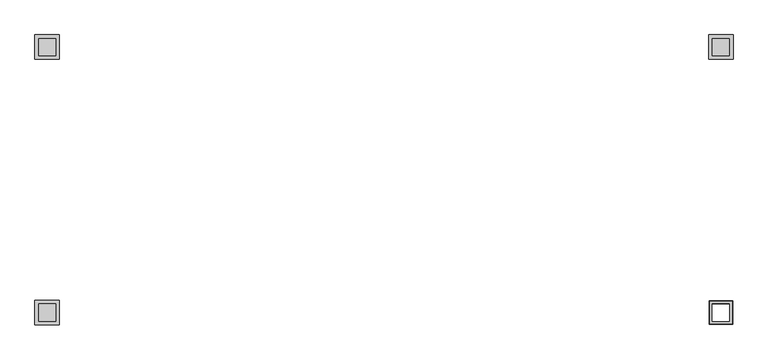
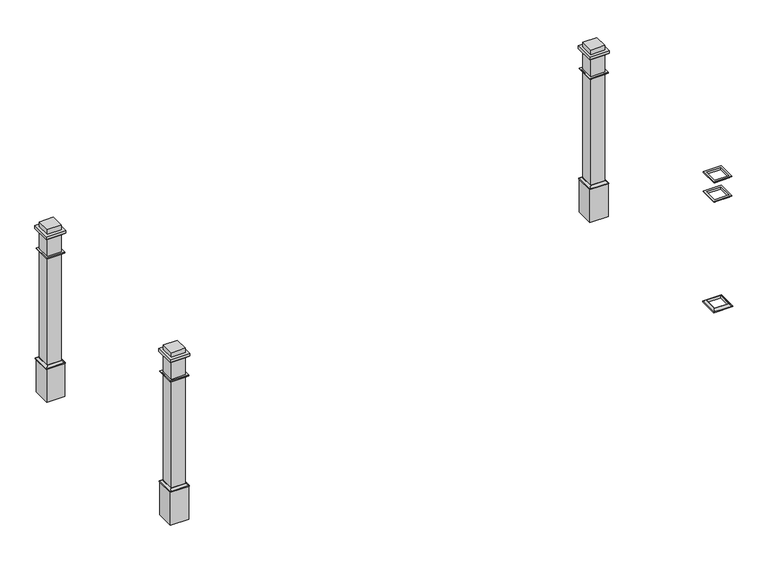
"""IFC4 building model written with IfcOpenShell, lengths in millimetres: railing geometry, Deco Type."""

from ifc_helpers import new_model, si_unit, frame, origin, place, context, project, spatial, polyline, ellipse_curve, outline, extrude, faceted_brep, source, transform, mapped, element, save
from ifc_brep_helpers import plane_surface, revolved_surface, advanced_brep


def railing_6e381e37(model_context):
    return source(origin(), model_context, "Body", "SolidModel", [
        advanced_brep(
        [(-6672.1906648, -9796.5505549, 6197.6), (-6672.1906648, -9796.5505549, 6219.825), (-6551.5406648, -9796.5505549, 6219.825), (-6551.5406648, -9796.5505549, 6197.6), (-6694.4156648, -9818.7755549, 6203.95), (-6694.4156648, -9818.7755549, 6197.6), (-6529.3156648, -9818.7755549, 6197.6), (-6529.3156648, -9818.7755549, 6203.95), (-6678.5406648, -9802.9005549, 6219.825), (-6545.1906648, -9802.9005549, 6219.825), (-6551.5406648, -9675.9005549, 6219.825), (-6551.5406648, -9675.9005549, 6197.6), (-6529.3156648, -9653.6755549, 6197.6), (-6529.3156648, -9653.6755549, 6203.95), (-6545.1906648, -9669.5505549, 6219.825), (-6672.1906648, -9675.9005549, 6219.825), (-6672.1906648, -9675.9005549, 6197.6), (-6694.4156648, -9653.6755549, 6197.6), (-6694.4156648, -9653.6755549, 6203.95), (-6678.5406648, -9669.5505549, 6219.825)],
        [
            (0, 1),
            (1, 2),
            (2, 3),
            (3, 0),
            (4, 5),
            (5, 6),
            (6, 7),
            (7, 4),
            (8, 4, ellipse_curve(frame((-6694.4156648, -9818.7755549, 6219.825), z_axis=(-0.7071067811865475, 0.7071067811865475, 0.0), x_axis=(0.7071067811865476, 0.7071067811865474, 0.0)), 22.4506403, 15.875)),
            (7, 9, ellipse_curve(frame((-6529.3156648, -9818.7755549, 6219.825), z_axis=(0.7071067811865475, 0.7071067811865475, 0.0), x_axis=(0.7071067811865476, -0.7071067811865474, 0.0)), 22.4506403, 15.875)),
            (9, 8),
            (2, 10),
            (10, 11),
            (11, 3),
            (6, 12),
            (12, 13),
            (13, 7),
            (13, 14, ellipse_curve(frame((-6529.3156648, -9653.6755549, 6219.825), z_axis=(-0.7071067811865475, 0.7071067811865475, 0.0), x_axis=(0.7071067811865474, 0.7071067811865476, 0.0)), 22.4506403, 15.875)),
            (14, 9),
            (10, 15),
            (15, 16),
            (16, 11),
            (12, 17),
            (17, 18),
            (18, 13),
            (18, 19, ellipse_curve(frame((-6694.4156648, -9653.6755549, 6219.825), z_axis=(-0.7071067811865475, -0.7071067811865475, 0.0), x_axis=(-0.7071067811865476, 0.7071067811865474, 0.0)), 22.4506403, 15.875)),
            (19, 14),
            (15, 1),
            (0, 16),
            (5, 17),
            (4, 18),
            (8, 19),
        ],
        [
            plane_surface(frame((-6672.1906648, -9796.5505549, 6219.825), z_axis=(0.0, 1.0, 0.0), x_axis=(1.0, 0.0, 0.0))),
            plane_surface(frame((-6694.4156648, -9818.7755549, 6197.6), z_axis=(0.0, -1.0, 0.0), x_axis=(1.0, 0.0, 0.0))),
            revolved_surface(polyline([(-6513.44066480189, -9802.9005549, 6219.825), (-6710.29066479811, -9802.9005549, 6219.825)]), (-6672.1906648, -9818.7755549, 6219.825), (1.0, 0.0, 0.0)),
            plane_surface(frame((-6551.5406648, -9796.5505549, 6219.825), z_axis=(-1.0, 0.0, 0.0), x_axis=(0.0, 1.0, 0.0))),
            plane_surface(frame((-6529.3156648, -9818.7755549, 6197.6), z_axis=(1.0, 0.0, 0.0), x_axis=(0.0, 1.0, 0.0))),
            revolved_surface(polyline([(-6545.1906648, -9637.80055490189, 6219.825), (-6545.1906648, -9834.65055489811, 6219.825)]), (-6529.3156648, -9796.5505549, 6219.825), (0.0, 1.0, 0.0)),
            plane_surface(frame((-6551.5406648, -9675.9005549, 6219.825), z_axis=(0.0, -1.0, 0.0), x_axis=(-1.0, 0.0, 0.0))),
            plane_surface(frame((-6529.3156648, -9653.6755549, 6197.6), z_axis=(0.0, 1.0, 0.0), x_axis=(-1.0, 0.0, 0.0))),
            revolved_surface(polyline([(-6710.29066479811, -9669.5505549, 6219.825), (-6513.44066480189, -9669.5505549, 6219.825)]), (-6551.5406648, -9653.6755549, 6219.825), (-1.0, 0.0, 0.0)),
            plane_surface(frame((-6672.1906648, -9675.9005549, 6219.825), z_axis=(1.0, 0.0, 0.0), x_axis=(0.0, -1.0, 0.0))),
            plane_surface(frame((-6672.1906648, -9675.9005549, 6197.6), z_axis=(0.0, 0.0, -1.0), x_axis=(0.0, -1.0, 0.0))),
            plane_surface(frame((-6694.4156648, -9653.6755549, 6197.6), z_axis=(-1.0, 0.0, 0.0), x_axis=(0.0, -1.0, 0.0))),
            revolved_surface(polyline([(-6678.5406648, -9834.65055489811, 6219.825), (-6678.5406648, -9637.80055490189, 6219.825)]), (-6694.4156648, -9675.9005549, 6219.825), (0.0, -1.0, 0.0)),
            plane_surface(frame((-6678.5406648, -9669.5505549, 6219.825), z_axis=(0.0, 0.0, 1.0), x_axis=(0.0, -1.0, 0.0))),
        ],
        [
            (0, [[1, 2, 3, 4]]),
            (1, [[5, 6, 7, 8]]),
            (2, [[9, -8, 10, 11]]),
            (3, [[-3, 12, 13, 14]]),
            (4, [[-7, 15, 16, 17]]),
            (5, [[-10, -17, 18, 19]]),
            (6, [[-13, 20, 21, 22]]),
            (7, [[-16, 23, 24, 25]]),
            (8, [[-18, -25, 26, 27]]),
            (9, [[-21, 28, -1, 29]]),
            (10, [[30, -23, -15, -6], [-14, -22, -29, -4]]),
            (11, [[-24, -30, -5, 31]]),
            (12, [[-26, -31, -9, 32]]),
            (13, [[-19, -27, -32, -11], [-28, -20, -12, -2]]),
        ],
    ),
        advanced_brep(
        [(-6672.1906648, -9796.5505549, 7204.075), (-6672.1906648, -9796.5505549, 7223.125), (-6551.5406648, -9796.5505549, 7223.125), (-6551.5406648, -9796.5505549, 7204.075), (-6691.2406648, -9815.6005549, 7216.775), (-6678.5406648, -9802.9005549, 7204.075), (-6545.1906648, -9802.9005549, 7204.075), (-6532.4906648, -9815.6005549, 7216.775), (-6691.2406648, -9815.6005549, 7223.125), (-6532.4906648, -9815.6005549, 7223.125), (-6551.5406648, -9675.9005549, 7223.125), (-6551.5406648, -9675.9005549, 7204.075), (-6545.1906648, -9669.5505549, 7204.075), (-6532.4906648, -9656.8505549, 7216.775), (-6532.4906648, -9656.8505549, 7223.125), (-6672.1906648, -9675.9005549, 7223.125), (-6672.1906648, -9675.9005549, 7204.075), (-6678.5406648, -9669.5505549, 7204.075), (-6691.2406648, -9656.8505549, 7216.775), (-6691.2406648, -9656.8505549, 7223.125)],
        [
            (0, 1),
            (1, 2),
            (2, 3),
            (3, 0),
            (4, 5, ellipse_curve(frame((-6691.2406648, -9815.6005549, 7204.075), z_axis=(-0.7071067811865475, 0.7071067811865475, 0.0), x_axis=(0.7071067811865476, 0.7071067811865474, 0.0)), 17.9605122, 12.7)),
            (5, 6),
            (6, 7, ellipse_curve(frame((-6532.4906648, -9815.6005549, 7204.075), z_axis=(0.7071067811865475, 0.7071067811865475, 0.0), x_axis=(0.7071067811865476, -0.7071067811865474, 0.0)), 17.9605122, 12.7)),
            (7, 4),
            (8, 4),
            (7, 9),
            (9, 8),
            (2, 10),
            (10, 11),
            (11, 3),
            (6, 12),
            (12, 13, ellipse_curve(frame((-6532.4906648, -9656.8505549, 7204.075), z_axis=(-0.7071067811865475, 0.7071067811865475, 0.0), x_axis=(0.7071067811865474, 0.7071067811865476, 0.0)), 17.9605122, 12.7)),
            (13, 7),
            (13, 14),
            (14, 9),
            (10, 15),
            (15, 16),
            (16, 11),
            (12, 17),
            (17, 18, ellipse_curve(frame((-6691.2406648, -9656.8505549, 7204.075), z_axis=(-0.7071067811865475, -0.7071067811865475, 0.0), x_axis=(-0.7071067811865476, 0.7071067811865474, 0.0)), 17.9605122, 12.7)),
            (18, 13),
            (18, 19),
            (19, 14),
            (19, 8),
            (1, 15),
            (0, 16),
            (5, 17),
            (4, 18),
        ],
        [
            plane_surface(frame((-6672.1906648, -9796.5505549, 7223.125), z_axis=(0.0, 1.0, 0.0), x_axis=(1.0, 0.0, 0.0))),
            revolved_surface(polyline([(-6519.790664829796, -9802.9005549, 7204.075), (-6703.9406647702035, -9802.9005549, 7204.075)]), (-6672.1906648, -9815.6005549, 7204.075), (1.0, 0.0, 0.0)),
            plane_surface(frame((-6691.2406648, -9815.6005549, 7216.775), z_axis=(0.0, -1.0, 0.0), x_axis=(1.0, 0.0, 0.0))),
            plane_surface(frame((-6551.5406648, -9796.5505549, 7223.125), z_axis=(-1.0, 0.0, 0.0), x_axis=(0.0, 1.0, 0.0))),
            revolved_surface(polyline([(-6545.1906647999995, -9644.150554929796, 7204.075), (-6545.1906647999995, -9828.300554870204, 7204.075)]), (-6532.4906648, -9796.5505549, 7204.075), (0.0, 1.0, 0.0)),
            plane_surface(frame((-6532.4906648, -9815.6005549, 7216.775), z_axis=(1.0, 0.0, 0.0), x_axis=(0.0, 1.0, 0.0))),
            plane_surface(frame((-6551.5406648, -9675.9005549, 7223.125), z_axis=(0.0, -1.0, 0.0), x_axis=(-1.0, 0.0, 0.0))),
            revolved_surface(polyline([(-6703.9406647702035, -9669.5505549, 7204.075), (-6519.790664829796, -9669.5505549, 7204.075)]), (-6551.5406648, -9656.8505549, 7204.075), (-1.0, 0.0, 0.0)),
            plane_surface(frame((-6532.4906648, -9656.8505549, 7216.775), z_axis=(0.0, 1.0, 0.0), x_axis=(-1.0, 0.0, 0.0))),
            plane_surface(frame((-6691.2406648, -9656.8505549, 7223.125), z_axis=(0.0, 0.0, 1.0), x_axis=(0.0, -1.0, 0.0))),
            plane_surface(frame((-6672.1906648, -9675.9005549, 7223.125), z_axis=(1.0, 0.0, 0.0), x_axis=(0.0, -1.0, 0.0))),
            plane_surface(frame((-6672.1906648, -9675.9005549, 7204.075), z_axis=(0.0, 0.0, -1.0), x_axis=(0.0, -1.0, 0.0))),
            revolved_surface(polyline([(-6678.5406648, -9828.300554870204, 7204.075), (-6678.5406648, -9644.150554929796, 7204.075)]), (-6691.2406648, -9675.9005549, 7204.075), (0.0, -1.0, 0.0)),
            plane_surface(frame((-6691.2406648, -9656.8505549, 7216.775), z_axis=(-1.0, 0.0, 0.0), x_axis=(0.0, -1.0, 0.0))),
        ],
        [
            (0, [[1, 2, 3, 4]]),
            (1, [[5, 6, 7, 8]]),
            (2, [[9, -8, 10, 11]]),
            (3, [[-3, 12, 13, 14]]),
            (4, [[-7, 15, 16, 17]]),
            (5, [[-10, -17, 18, 19]]),
            (6, [[-13, 20, 21, 22]]),
            (7, [[-16, 23, 24, 25]]),
            (8, [[-18, -25, 26, 27]]),
            (9, [[-19, -27, 28, -11], [29, -20, -12, -2]]),
            (10, [[-21, -29, -1, 30]]),
            (11, [[31, -23, -15, -6], [-14, -22, -30, -4]]),
            (12, [[-24, -31, -5, 32]]),
            (13, [[-26, -32, -9, -28]]),
        ],
    ),
        faceted_brep([(-6672.1906648, -9796.5505549, 7381.875), (-6672.1906648, -9796.5505549, 7400.925), (-6551.5406648, -9796.5505549, 7400.925), (-6551.5406648, -9796.5505549, 7381.875), (-6678.5406648, -9802.9005549, 7394.575), (-6678.5406648, -9802.9005549, 7381.875), (-6545.1906648, -9802.9005549, 7381.875), (-6545.1906648, -9802.9005549, 7394.575), (-6691.2406648, -9815.6005549, 7400.925), (-6691.2406648, -9815.6005549, 7394.575), (-6532.4906648, -9815.6005549, 7394.575), (-6532.4906648, -9815.6005549, 7400.925), (-6551.5406648, -9675.9005549, 7400.925), (-6551.5406648, -9675.9005549, 7381.875), (-6545.1906648, -9669.5505549, 7381.875), (-6545.1906648, -9669.5505549, 7394.575), (-6532.4906648, -9656.8505549, 7394.575), (-6532.4906648, -9656.8505549, 7400.925), (-6672.1906648, -9675.9005549, 7400.925), (-6672.1906648, -9675.9005549, 7381.875), (-6678.5406648, -9669.5505549, 7381.875), (-6678.5406648, -9669.5505549, 7394.575), (-6691.2406648, -9656.8505549, 7394.575), (-6691.2406648, -9656.8505549, 7400.925)], [[[0, 1, 2, 3]], [[4, 5, 6, 7]], [[8, 9, 10, 11]], [[3, 2, 12, 13]], [[7, 6, 14, 15]], [[11, 10, 16, 17]], [[13, 12, 18, 19]], [[15, 14, 20, 21]], [[17, 16, 22, 23]], [[19, 18, 1, 0]], [[5, 20, 14, 6], [3, 13, 19, 0]], [[21, 20, 5, 4]], [[9, 22, 16, 10], [7, 15, 21, 4]], [[23, 22, 9, 8]], [[11, 17, 23, 8], [1, 18, 12, 2]]]),
        extrude(outline(polyline([(-11275.1469148, -9656.8505549), (-11275.1469148, -9815.6005549), (-11433.8969148, -9815.6005549), (-11433.8969148, -9656.8505549), (-11275.1469148, -9656.8505549)])), frame((0.0, 0.0, 5892.8), z_axis=(0.0, 0.0, 1.0), x_axis=(1.0, 0.0, 0.0)), (0.0, 0.0, 1.0), 304.8),
        extrude(outline(polyline([(-11294.1969148, -9675.9005549), (-11294.1969148, -9796.5505549), (-11414.8469148, -9796.5505549), (-11414.8469148, -9675.9005549), (-11294.1969148, -9675.9005549)])), frame((0.0, 0.0, 6197.6), z_axis=(0.0, 0.0, 1.0), x_axis=(1.0, 0.0, 0.0)), (0.0, 0.0, 1.0), 1270.0),
        extrude(outline(polyline([(-11440.2469148, -9650.5005549), (-11268.7969148, -9650.5005549), (-11268.7969148, -9821.9505549), (-11440.2469148, -9821.9505549), (-11440.2469148, -9650.5005549)]), holes=[polyline([(-11414.8469148, -9796.5505549), (-11294.1969148, -9796.5505549), (-11294.1969148, -9675.9005549), (-11414.8469148, -9675.9005549), (-11414.8469148, -9796.5505549)])]), frame((0.0, 0.0, 7400.925), z_axis=(0.0, 0.0, 1.0), x_axis=(1.0, 0.0, 0.0)), (0.0, 0.0, 1.0), 25.4),
        advanced_brep(
        [(-11414.8469148, -9675.9005549, 6197.6), (-11414.8469148, -9675.9005549, 6219.825), (-11414.8469148, -9796.5505549, 6219.825), (-11414.8469148, -9796.5505549, 6197.6), (-11437.0719148, -9653.6755549, 6203.95), (-11437.0719148, -9653.6755549, 6197.6), (-11437.0719148, -9818.7755549, 6197.6), (-11437.0719148, -9818.7755549, 6203.95), (-11421.1969148, -9669.5505549, 6219.825), (-11421.1969148, -9802.9005549, 6219.825), (-11294.1969148, -9796.5505549, 6219.825), (-11294.1969148, -9796.5505549, 6197.6), (-11271.9719148, -9818.7755549, 6197.6), (-11271.9719148, -9818.7755549, 6203.95), (-11287.8469148, -9802.9005549, 6219.825), (-11294.1969148, -9675.9005549, 6219.825), (-11294.1969148, -9675.9005549, 6197.6), (-11271.9719148, -9653.6755549, 6197.6), (-11271.9719148, -9653.6755549, 6203.95), (-11287.8469148, -9669.5505549, 6219.825)],
        [
            (0, 1),
            (1, 2),
            (2, 3),
            (3, 0),
            (4, 5),
            (5, 6),
            (6, 7),
            (7, 4),
            (8, 4, ellipse_curve(frame((-11437.0719148, -9653.6755549, 6219.825), z_axis=(0.7071067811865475, 0.7071067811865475, 0.0), x_axis=(0.7071067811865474, -0.7071067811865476, 0.0)), 22.4506403, 15.875)),
            (7, 9, ellipse_curve(frame((-11437.0719148, -9818.7755549, 6219.825), z_axis=(0.7071067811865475, -0.7071067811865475, 0.0), x_axis=(-0.7071067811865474, -0.7071067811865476, 0.0)), 22.4506403, 15.875)),
            (9, 8),
            (2, 10),
            (10, 11),
            (11, 3),
            (6, 12),
            (12, 13),
            (13, 7),
            (13, 14, ellipse_curve(frame((-11271.9719148, -9818.7755549, 6219.825), z_axis=(0.7071067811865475, 0.7071067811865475, 0.0), x_axis=(0.7071067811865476, -0.7071067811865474, 0.0)), 22.4506403, 15.875)),
            (14, 9),
            (10, 15),
            (15, 16),
            (16, 11),
            (12, 17),
            (17, 18),
            (18, 13),
            (18, 19, ellipse_curve(frame((-11271.9719148, -9653.6755549, 6219.825), z_axis=(-0.7071067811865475, 0.7071067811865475, 0.0), x_axis=(0.7071067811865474, 0.7071067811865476, 0.0)), 22.4506403, 15.875)),
            (19, 14),
            (15, 1),
            (0, 16),
            (5, 17),
            (4, 18),
            (8, 19),
        ],
        [
            plane_surface(frame((-11414.8469148, -9675.9005549, 6219.825), z_axis=(1.0, 0.0, 0.0), x_axis=(0.0, -1.0, 0.0))),
            plane_surface(frame((-11437.0719148, -9653.6755549, 6197.6), z_axis=(-1.0, 0.0, 0.0), x_axis=(0.0, -1.0, 0.0))),
            revolved_surface(polyline([(-11421.1969148, -9834.65055489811, 6219.825), (-11421.1969148, -9637.80055490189, 6219.825)]), (-11437.0719148, -9675.9005549, 6219.825), (0.0, -1.0, 0.0)),
            plane_surface(frame((-11414.8469148, -9796.5505549, 6219.825), z_axis=(0.0, 1.0, 0.0), x_axis=(1.0, 0.0, 0.0))),
            plane_surface(frame((-11437.0719148, -9818.7755549, 6197.6), z_axis=(0.0, -1.0, 0.0), x_axis=(1.0, 0.0, 0.0))),
            revolved_surface(polyline([(-11256.09691480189, -9802.9005549, 6219.825), (-11452.94691479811, -9802.9005549, 6219.825)]), (-11414.8469148, -9818.7755549, 6219.825), (1.0, 0.0, 0.0)),
            plane_surface(frame((-11294.1969148, -9796.5505549, 6219.825), z_axis=(-1.0, 0.0, 0.0), x_axis=(0.0, 1.0, 0.0))),
            plane_surface(frame((-11271.9719148, -9818.7755549, 6197.6), z_axis=(1.0, 0.0, 0.0), x_axis=(0.0, 1.0, 0.0))),
            revolved_surface(polyline([(-11287.8469148, -9637.80055490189, 6219.825), (-11287.8469148, -9834.65055489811, 6219.825)]), (-11271.9719148, -9796.5505549, 6219.825), (0.0, 1.0, 0.0)),
            plane_surface(frame((-11294.1969148, -9675.9005549, 6219.825), z_axis=(0.0, -1.0, 0.0), x_axis=(-1.0, 0.0, 0.0))),
            plane_surface(frame((-11294.1969148, -9675.9005549, 6197.6), z_axis=(0.0, 0.0, -1.0), x_axis=(-1.0, 0.0, 0.0))),
            plane_surface(frame((-11271.9719148, -9653.6755549, 6197.6), z_axis=(0.0, 1.0, 0.0), x_axis=(-1.0, 0.0, 0.0))),
            revolved_surface(polyline([(-11452.94691479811, -9669.5505549, 6219.825), (-11256.09691480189, -9669.5505549, 6219.825)]), (-11294.1969148, -9653.6755549, 6219.825), (-1.0, 0.0, 0.0)),
            plane_surface(frame((-11287.8469148, -9669.5505549, 6219.825), z_axis=(0.0, 0.0, 1.0), x_axis=(-1.0, 0.0, 0.0))),
        ],
        [
            (0, [[1, 2, 3, 4]]),
            (1, [[5, 6, 7, 8]]),
            (2, [[9, -8, 10, 11]]),
            (3, [[-3, 12, 13, 14]]),
            (4, [[-7, 15, 16, 17]]),
            (5, [[-10, -17, 18, 19]]),
            (6, [[-13, 20, 21, 22]]),
            (7, [[-16, 23, 24, 25]]),
            (8, [[-18, -25, 26, 27]]),
            (9, [[-21, 28, -1, 29]]),
            (10, [[30, -23, -15, -6], [-14, -22, -29, -4]]),
            (11, [[-24, -30, -5, 31]]),
            (12, [[-26, -31, -9, 32]]),
            (13, [[-19, -27, -32, -11], [-28, -20, -12, -2]]),
        ],
    ),
        advanced_brep(
        [(-11414.8469148, -9675.9005549, 7204.075), (-11414.8469148, -9675.9005549, 7223.125), (-11414.8469148, -9796.5505549, 7223.125), (-11414.8469148, -9796.5505549, 7204.075), (-11433.8969148, -9656.8505549, 7216.775), (-11421.1969148, -9669.5505549, 7204.075), (-11421.1969148, -9802.9005549, 7204.075), (-11433.8969148, -9815.6005549, 7216.775), (-11433.8969148, -9656.8505549, 7223.125), (-11433.8969148, -9815.6005549, 7223.125), (-11294.1969148, -9796.5505549, 7223.125), (-11294.1969148, -9796.5505549, 7204.075), (-11287.8469148, -9802.9005549, 7204.075), (-11275.1469148, -9815.6005549, 7216.775), (-11275.1469148, -9815.6005549, 7223.125), (-11294.1969148, -9675.9005549, 7223.125), (-11294.1969148, -9675.9005549, 7204.075), (-11287.8469148, -9669.5505549, 7204.075), (-11275.1469148, -9656.8505549, 7216.775), (-11275.1469148, -9656.8505549, 7223.125)],
        [
            (0, 1),
            (1, 2),
            (2, 3),
            (3, 0),
            (4, 5, ellipse_curve(frame((-11433.8969148, -9656.8505549, 7204.075), z_axis=(0.7071067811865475, 0.7071067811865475, 0.0), x_axis=(0.7071067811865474, -0.7071067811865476, 0.0)), 17.9605122, 12.7)),
            (5, 6),
            (6, 7, ellipse_curve(frame((-11433.8969148, -9815.6005549, 7204.075), z_axis=(0.7071067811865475, -0.7071067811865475, 0.0), x_axis=(-0.7071067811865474, -0.7071067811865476, 0.0)), 17.9605122, 12.7)),
            (7, 4),
            (8, 4),
            (7, 9),
            (9, 8),
            (2, 10),
            (10, 11),
            (11, 3),
            (6, 12),
            (12, 13, ellipse_curve(frame((-11275.1469148, -9815.6005549, 7204.075), z_axis=(0.7071067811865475, 0.7071067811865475, 0.0), x_axis=(0.7071067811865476, -0.7071067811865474, 0.0)), 17.9605122, 12.7)),
            (13, 7),
            (13, 14),
            (14, 9),
            (10, 15),
            (15, 16),
            (16, 11),
            (12, 17),
            (17, 18, ellipse_curve(frame((-11275.1469148, -9656.8505549, 7204.075), z_axis=(-0.7071067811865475, 0.7071067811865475, 0.0), x_axis=(0.7071067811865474, 0.7071067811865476, 0.0)), 17.9605122, 12.7)),
            (18, 13),
            (18, 19),
            (19, 14),
            (19, 8),
            (1, 15),
            (0, 16),
            (5, 17),
            (4, 18),
        ],
        [
            plane_surface(frame((-11414.8469148, -9675.9005549, 7223.125), z_axis=(1.0, 0.0, 0.0), x_axis=(0.0, -1.0, 0.0))),
            revolved_surface(polyline([(-11421.196914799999, -9828.300554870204, 7204.075), (-11421.196914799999, -9644.150554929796, 7204.075)]), (-11433.8969148, -9675.9005549, 7204.075), (0.0, -1.0, 0.0)),
            plane_surface(frame((-11433.8969148, -9656.8505549, 7216.775), z_axis=(-1.0, 0.0, 0.0), x_axis=(0.0, -1.0, 0.0))),
            plane_surface(frame((-11414.8469148, -9796.5505549, 7223.125), z_axis=(0.0, 1.0, 0.0), x_axis=(1.0, 0.0, 0.0))),
            revolved_surface(polyline([(-11262.446914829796, -9802.9005549, 7204.075), (-11446.596914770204, -9802.9005549, 7204.075)]), (-11414.8469148, -9815.6005549, 7204.075), (1.0, 0.0, 0.0)),
            plane_surface(frame((-11433.8969148, -9815.6005549, 7216.775), z_axis=(0.0, -1.0, 0.0), x_axis=(1.0, 0.0, 0.0))),
            plane_surface(frame((-11294.1969148, -9796.5505549, 7223.125), z_axis=(-1.0, 0.0, 0.0), x_axis=(0.0, 1.0, 0.0))),
            revolved_surface(polyline([(-11287.8469148, -9644.150554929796, 7204.075), (-11287.8469148, -9828.300554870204, 7204.075)]), (-11275.1469148, -9796.5505549, 7204.075), (0.0, 1.0, 0.0)),
            plane_surface(frame((-11275.1469148, -9815.6005549, 7216.775), z_axis=(1.0, 0.0, 0.0), x_axis=(0.0, 1.0, 0.0))),
            plane_surface(frame((-11275.1469148, -9656.8505549, 7223.125), z_axis=(0.0, 0.0, 1.0), x_axis=(-1.0, 0.0, 0.0))),
            plane_surface(frame((-11294.1969148, -9675.9005549, 7223.125), z_axis=(0.0, -1.0, 0.0), x_axis=(-1.0, 0.0, 0.0))),
            plane_surface(frame((-11294.1969148, -9675.9005549, 7204.075), z_axis=(0.0, 0.0, -1.0), x_axis=(-1.0, 0.0, 0.0))),
            revolved_surface(polyline([(-11446.596914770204, -9669.5505549, 7204.075), (-11262.446914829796, -9669.5505549, 7204.075)]), (-11294.1969148, -9656.8505549, 7204.075), (-1.0, 0.0, 0.0)),
            plane_surface(frame((-11275.1469148, -9656.8505549, 7216.775), z_axis=(0.0, 1.0, 0.0), x_axis=(-1.0, 0.0, 0.0))),
        ],
        [
            (0, [[1, 2, 3, 4]]),
            (1, [[5, 6, 7, 8]]),
            (2, [[9, -8, 10, 11]]),
            (3, [[-3, 12, 13, 14]]),
            (4, [[-7, 15, 16, 17]]),
            (5, [[-10, -17, 18, 19]]),
            (6, [[-13, 20, 21, 22]]),
            (7, [[-16, 23, 24, 25]]),
            (8, [[-18, -25, 26, 27]]),
            (9, [[-19, -27, 28, -11], [29, -20, -12, -2]]),
            (10, [[-21, -29, -1, 30]]),
            (11, [[31, -23, -15, -6], [-14, -22, -30, -4]]),
            (12, [[-24, -31, -5, 32]]),
            (13, [[-26, -32, -9, -28]]),
        ],
    ),
        faceted_brep([(-11414.8469148, -9675.9005549, 7381.875), (-11414.8469148, -9675.9005549, 7400.925), (-11414.8469148, -9796.5505549, 7400.925), (-11414.8469148, -9796.5505549, 7381.875), (-11421.1969148, -9669.5505549, 7394.575), (-11421.1969148, -9669.5505549, 7381.875), (-11421.1969148, -9802.9005549, 7381.875), (-11421.1969148, -9802.9005549, 7394.575), (-11433.8969148, -9656.8505549, 7400.925), (-11433.8969148, -9656.8505549, 7394.575), (-11433.8969148, -9815.6005549, 7394.575), (-11433.8969148, -9815.6005549, 7400.925), (-11294.1969148, -9796.5505549, 7400.925), (-11294.1969148, -9796.5505549, 7381.875), (-11287.8469148, -9802.9005549, 7381.875), (-11287.8469148, -9802.9005549, 7394.575), (-11275.1469148, -9815.6005549, 7394.575), (-11275.1469148, -9815.6005549, 7400.925), (-11294.1969148, -9675.9005549, 7400.925), (-11294.1969148, -9675.9005549, 7381.875), (-11287.8469148, -9669.5505549, 7381.875), (-11287.8469148, -9669.5505549, 7394.575), (-11275.1469148, -9656.8505549, 7394.575), (-11275.1469148, -9656.8505549, 7400.925)], [[[0, 1, 2, 3]], [[4, 5, 6, 7]], [[8, 9, 10, 11]], [[3, 2, 12, 13]], [[7, 6, 14, 15]], [[11, 10, 16, 17]], [[13, 12, 18, 19]], [[15, 14, 20, 21]], [[17, 16, 22, 23]], [[19, 18, 1, 0]], [[5, 20, 14, 6], [3, 13, 19, 0]], [[21, 20, 5, 4]], [[9, 22, 16, 10], [7, 15, 21, 4]], [[23, 22, 9, 8]], [[11, 17, 23, 8], [1, 18, 12, 2]]]),
        extrude(outline(polyline([(-6691.2406648, -7943.5411799), (-6691.2406648, -7784.7911799), (-6532.4906648, -7784.7911799), (-6532.4906648, -7943.5411799), (-6691.2406648, -7943.5411799)])), frame((0.0, 0.0, 5892.8), z_axis=(0.0, 0.0, 1.0), x_axis=(1.0, 0.0, 0.0)), (0.0, 0.0, 1.0), 304.8),
        extrude(outline(polyline([(-6672.1906648, -7924.4911799), (-6672.1906648, -7803.8411799), (-6551.5406648, -7803.8411799), (-6551.5406648, -7924.4911799), (-6672.1906648, -7924.4911799)])), frame((0.0, 0.0, 6197.6), z_axis=(0.0, 0.0, 1.0), x_axis=(1.0, 0.0, 0.0)), (0.0, 0.0, 1.0), 1270.0),
        extrude(outline(polyline([(-6526.1406648, -7949.8911799), (-6697.5906648, -7949.8911799), (-6697.5906648, -7778.4411799), (-6526.1406648, -7778.4411799), (-6526.1406648, -7949.8911799)]), holes=[polyline([(-6551.5406648, -7803.8411799), (-6672.1906648, -7803.8411799), (-6672.1906648, -7924.4911799), (-6551.5406648, -7924.4911799), (-6551.5406648, -7803.8411799)])]), frame((0.0, 0.0, 7400.925), z_axis=(0.0, 0.0, 1.0), x_axis=(1.0, 0.0, 0.0)), (0.0, 0.0, 1.0), 25.4),
        advanced_brep(
        [(-6551.5406648, -7924.4911799, 6197.6), (-6551.5406648, -7924.4911799, 6219.825), (-6551.5406648, -7803.8411799, 6219.825), (-6551.5406648, -7803.8411799, 6197.6), (-6529.3156648, -7946.7161799, 6203.95), (-6529.3156648, -7946.7161799, 6197.6), (-6529.3156648, -7781.6161799, 6197.6), (-6529.3156648, -7781.6161799, 6203.95), (-6545.1906648, -7930.8411799, 6219.825), (-6545.1906648, -7797.4911799, 6219.825), (-6672.1906648, -7803.8411799, 6219.825), (-6672.1906648, -7803.8411799, 6197.6), (-6694.4156648, -7781.6161799, 6197.6), (-6694.4156648, -7781.6161799, 6203.95), (-6678.5406648, -7797.4911799, 6219.825), (-6672.1906648, -7924.4911799, 6219.825), (-6672.1906648, -7924.4911799, 6197.6), (-6694.4156648, -7946.7161799, 6197.6), (-6694.4156648, -7946.7161799, 6203.95), (-6678.5406648, -7930.8411799, 6219.825)],
        [
            (0, 1),
            (1, 2),
            (2, 3),
            (3, 0),
            (4, 5),
            (5, 6),
            (6, 7),
            (7, 4),
            (8, 4, ellipse_curve(frame((-6529.3156648, -7946.7161799, 6219.825), z_axis=(-0.7071067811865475, -0.7071067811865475, 0.0), x_axis=(-0.7071067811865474, 0.7071067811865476, 0.0)), 22.4506403, 15.875)),
            (7, 9, ellipse_curve(frame((-6529.3156648, -7781.6161799, 6219.825), z_axis=(-0.7071067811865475, 0.7071067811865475, 0.0), x_axis=(0.7071067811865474, 0.7071067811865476, 0.0)), 22.4506403, 15.875)),
            (9, 8),
            (2, 10),
            (10, 11),
            (11, 3),
            (6, 12),
            (12, 13),
            (13, 7),
            (13, 14, ellipse_curve(frame((-6694.4156648, -7781.6161799, 6219.825), z_axis=(-0.7071067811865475, -0.7071067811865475, 0.0), x_axis=(-0.7071067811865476, 0.7071067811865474, 0.0)), 22.4506403, 15.875)),
            (14, 9),
            (10, 15),
            (15, 16),
            (16, 11),
            (12, 17),
            (17, 18),
            (18, 13),
            (18, 19, ellipse_curve(frame((-6694.4156648, -7946.7161799, 6219.825), z_axis=(0.7071067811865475, -0.7071067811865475, 0.0), x_axis=(-0.7071067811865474, -0.7071067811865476, 0.0)), 22.4506403, 15.875)),
            (19, 14),
            (15, 1),
            (0, 16),
            (5, 17),
            (4, 18),
            (8, 19),
        ],
        [
            plane_surface(frame((-6551.5406648, -7924.4911799, 6219.825), z_axis=(-1.0, 0.0, 0.0), x_axis=(0.0, 1.0, 0.0))),
            plane_surface(frame((-6529.3156648, -7946.7161799, 6197.6), z_axis=(1.0, 0.0, 0.0), x_axis=(0.0, 1.0, 0.0))),
            revolved_surface(polyline([(-6545.1906648, -7765.74117990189, 6219.825), (-6545.1906648, -7962.59117989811, 6219.825)]), (-6529.3156648, -7924.4911799, 6219.825), (0.0, 1.0, 0.0)),
            plane_surface(frame((-6551.5406648, -7803.8411799, 6219.825), z_axis=(0.0, -1.0, 0.0), x_axis=(-1.0, 0.0, 0.0))),
            plane_surface(frame((-6529.3156648, -7781.6161799, 6197.6), z_axis=(0.0, 1.0, 0.0), x_axis=(-1.0, 0.0, 0.0))),
            revolved_surface(polyline([(-6710.29066479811, -7797.4911799, 6219.825), (-6513.44066480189, -7797.4911799, 6219.825)]), (-6551.5406648, -7781.6161799, 6219.825), (-1.0, 0.0, 0.0)),
            plane_surface(frame((-6672.1906648, -7803.8411799, 6219.825), z_axis=(1.0, 0.0, 0.0), x_axis=(0.0, -1.0, 0.0))),
            plane_surface(frame((-6694.4156648, -7781.6161799, 6197.6), z_axis=(-1.0, 0.0, 0.0), x_axis=(0.0, -1.0, 0.0))),
            revolved_surface(polyline([(-6678.5406648, -7962.59117989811, 6219.825), (-6678.5406648, -7765.74117990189, 6219.825)]), (-6694.4156648, -7803.8411799, 6219.825), (0.0, -1.0, 0.0)),
            plane_surface(frame((-6672.1906648, -7924.4911799, 6219.825), z_axis=(0.0, 1.0, 0.0), x_axis=(1.0, 0.0, 0.0))),
            plane_surface(frame((-6672.1906648, -7924.4911799, 6197.6), z_axis=(0.0, 0.0, -1.0), x_axis=(1.0, 0.0, 0.0))),
            plane_surface(frame((-6694.4156648, -7946.7161799, 6197.6), z_axis=(0.0, -1.0, 0.0), x_axis=(1.0, 0.0, 0.0))),
            revolved_surface(polyline([(-6513.44066480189, -7930.8411799, 6219.825), (-6710.29066479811, -7930.8411799, 6219.825)]), (-6672.1906648, -7946.7161799, 6219.825), (1.0, 0.0, 0.0)),
            plane_surface(frame((-6678.5406648, -7930.8411799, 6219.825), z_axis=(0.0, 0.0, 1.0), x_axis=(1.0, 0.0, 0.0))),
        ],
        [
            (0, [[1, 2, 3, 4]]),
            (1, [[5, 6, 7, 8]]),
            (2, [[9, -8, 10, 11]]),
            (3, [[-3, 12, 13, 14]]),
            (4, [[-7, 15, 16, 17]]),
            (5, [[-10, -17, 18, 19]]),
            (6, [[-13, 20, 21, 22]]),
            (7, [[-16, 23, 24, 25]]),
            (8, [[-18, -25, 26, 27]]),
            (9, [[-21, 28, -1, 29]]),
            (10, [[30, -23, -15, -6], [-14, -22, -29, -4]]),
            (11, [[-24, -30, -5, 31]]),
            (12, [[-26, -31, -9, 32]]),
            (13, [[-19, -27, -32, -11], [-28, -20, -12, -2]]),
        ],
    ),
        advanced_brep(
        [(-6551.5406648, -7924.4911799, 7204.075), (-6551.5406648, -7924.4911799, 7223.125), (-6551.5406648, -7803.8411799, 7223.125), (-6551.5406648, -7803.8411799, 7204.075), (-6532.4906648, -7943.5411799, 7216.775), (-6545.1906648, -7930.8411799, 7204.075), (-6545.1906648, -7797.4911799, 7204.075), (-6532.4906648, -7784.7911799, 7216.775), (-6532.4906648, -7943.5411799, 7223.125), (-6532.4906648, -7784.7911799, 7223.125), (-6672.1906648, -7803.8411799, 7223.125), (-6672.1906648, -7803.8411799, 7204.075), (-6678.5406648, -7797.4911799, 7204.075), (-6691.2406648, -7784.7911799, 7216.775), (-6691.2406648, -7784.7911799, 7223.125), (-6672.1906648, -7924.4911799, 7223.125), (-6672.1906648, -7924.4911799, 7204.075), (-6678.5406648, -7930.8411799, 7204.075), (-6691.2406648, -7943.5411799, 7216.775), (-6691.2406648, -7943.5411799, 7223.125)],
        [
            (0, 1),
            (1, 2),
            (2, 3),
            (3, 0),
            (4, 5, ellipse_curve(frame((-6532.4906648, -7943.5411799, 7204.075), z_axis=(-0.7071067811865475, -0.7071067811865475, 0.0), x_axis=(-0.7071067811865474, 0.7071067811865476, 0.0)), 17.9605122, 12.7)),
            (5, 6),
            (6, 7, ellipse_curve(frame((-6532.4906648, -7784.7911799, 7204.075), z_axis=(-0.7071067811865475, 0.7071067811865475, 0.0), x_axis=(0.7071067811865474, 0.7071067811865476, 0.0)), 17.9605122, 12.7)),
            (7, 4),
            (8, 4),
            (7, 9),
            (9, 8),
            (2, 10),
            (10, 11),
            (11, 3),
            (6, 12),
            (12, 13, ellipse_curve(frame((-6691.2406648, -7784.7911799, 7204.075), z_axis=(-0.7071067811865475, -0.7071067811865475, 0.0), x_axis=(-0.7071067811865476, 0.7071067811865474, 0.0)), 17.9605122, 12.7)),
            (13, 7),
            (13, 14),
            (14, 9),
            (10, 15),
            (15, 16),
            (16, 11),
            (12, 17),
            (17, 18, ellipse_curve(frame((-6691.2406648, -7943.5411799, 7204.075), z_axis=(0.7071067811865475, -0.7071067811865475, 0.0), x_axis=(-0.7071067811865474, -0.7071067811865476, 0.0)), 17.9605122, 12.7)),
            (18, 13),
            (18, 19),
            (19, 14),
            (19, 8),
            (1, 15),
            (0, 16),
            (5, 17),
            (4, 18),
        ],
        [
            plane_surface(frame((-6551.5406648, -7924.4911799, 7223.125), z_axis=(-1.0, 0.0, 0.0), x_axis=(0.0, 1.0, 0.0))),
            revolved_surface(polyline([(-6545.1906647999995, -7772.091179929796, 7204.075), (-6545.1906647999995, -7956.241179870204, 7204.075)]), (-6532.4906648, -7924.4911799, 7204.075), (0.0, 1.0, 0.0)),
            plane_surface(frame((-6532.4906648, -7943.5411799, 7216.775), z_axis=(1.0, 0.0, 0.0), x_axis=(0.0, 1.0, 0.0))),
            plane_surface(frame((-6551.5406648, -7803.8411799, 7223.125), z_axis=(0.0, -1.0, 0.0), x_axis=(-1.0, 0.0, 0.0))),
            revolved_surface(polyline([(-6703.9406647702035, -7797.4911799, 7204.075), (-6519.790664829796, -7797.4911799, 7204.075)]), (-6551.5406648, -7784.7911799, 7204.075), (-1.0, 0.0, 0.0)),
            plane_surface(frame((-6532.4906648, -7784.7911799, 7216.775), z_axis=(0.0, 1.0, 0.0), x_axis=(-1.0, 0.0, 0.0))),
            plane_surface(frame((-6672.1906648, -7803.8411799, 7223.125), z_axis=(1.0, 0.0, 0.0), x_axis=(0.0, -1.0, 0.0))),
            revolved_surface(polyline([(-6678.5406648, -7956.241179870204, 7204.075), (-6678.5406648, -7772.091179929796, 7204.075)]), (-6691.2406648, -7803.8411799, 7204.075), (0.0, -1.0, 0.0)),
            plane_surface(frame((-6691.2406648, -7784.7911799, 7216.775), z_axis=(-1.0, 0.0, 0.0), x_axis=(0.0, -1.0, 0.0))),
            plane_surface(frame((-6691.2406648, -7943.5411799, 7223.125), z_axis=(0.0, 0.0, 1.0), x_axis=(1.0, 0.0, 0.0))),
            plane_surface(frame((-6672.1906648, -7924.4911799, 7223.125), z_axis=(0.0, 1.0, 0.0), x_axis=(1.0, 0.0, 0.0))),
            plane_surface(frame((-6672.1906648, -7924.4911799, 7204.075), z_axis=(0.0, 0.0, -1.0), x_axis=(1.0, 0.0, 0.0))),
            revolved_surface(polyline([(-6519.790664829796, -7930.8411799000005, 7204.075), (-6703.9406647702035, -7930.8411799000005, 7204.075)]), (-6672.1906648, -7943.5411799, 7204.075), (1.0, 0.0, 0.0)),
            plane_surface(frame((-6691.2406648, -7943.5411799, 7216.775), z_axis=(0.0, -1.0, 0.0), x_axis=(1.0, 0.0, 0.0))),
        ],
        [
            (0, [[1, 2, 3, 4]]),
            (1, [[5, 6, 7, 8]]),
            (2, [[9, -8, 10, 11]]),
            (3, [[-3, 12, 13, 14]]),
            (4, [[-7, 15, 16, 17]]),
            (5, [[-10, -17, 18, 19]]),
            (6, [[-13, 20, 21, 22]]),
            (7, [[-16, 23, 24, 25]]),
            (8, [[-18, -25, 26, 27]]),
            (9, [[-19, -27, 28, -11], [29, -20, -12, -2]]),
            (10, [[-21, -29, -1, 30]]),
            (11, [[31, -23, -15, -6], [-14, -22, -30, -4]]),
            (12, [[-24, -31, -5, 32]]),
            (13, [[-26, -32, -9, -28]]),
        ],
    ),
        faceted_brep([(-6551.5406648, -7924.4911799, 7381.875), (-6551.5406648, -7924.4911799, 7400.925), (-6551.5406648, -7803.8411799, 7400.925), (-6551.5406648, -7803.8411799, 7381.875), (-6545.1906648, -7930.8411799, 7394.575), (-6545.1906648, -7930.8411799, 7381.875), (-6545.1906648, -7797.4911799, 7381.875), (-6545.1906648, -7797.4911799, 7394.575), (-6532.4906648, -7943.5411799, 7400.925), (-6532.4906648, -7943.5411799, 7394.575), (-6532.4906648, -7784.7911799, 7394.575), (-6532.4906648, -7784.7911799, 7400.925), (-6672.1906648, -7803.8411799, 7400.925), (-6672.1906648, -7803.8411799, 7381.875), (-6678.5406648, -7797.4911799, 7381.875), (-6678.5406648, -7797.4911799, 7394.575), (-6691.2406648, -7784.7911799, 7394.575), (-6691.2406648, -7784.7911799, 7400.925), (-6672.1906648, -7924.4911799, 7400.925), (-6672.1906648, -7924.4911799, 7381.875), (-6678.5406648, -7930.8411799, 7381.875), (-6678.5406648, -7930.8411799, 7394.575), (-6691.2406648, -7943.5411799, 7394.575), (-6691.2406648, -7943.5411799, 7400.925)], [[[0, 1, 2, 3]], [[4, 5, 6, 7]], [[8, 9, 10, 11]], [[3, 2, 12, 13]], [[7, 6, 14, 15]], [[11, 10, 16, 17]], [[13, 12, 18, 19]], [[15, 14, 20, 21]], [[17, 16, 22, 23]], [[19, 18, 1, 0]], [[5, 20, 14, 6], [3, 13, 19, 0]], [[21, 20, 5, 4]], [[9, 22, 16, 10], [7, 15, 21, 4]], [[23, 22, 9, 8]], [[11, 17, 23, 8], [1, 18, 12, 2]]]),
        extrude(outline(polyline([(-11275.1469148, -7784.7911799), (-11275.1469148, -7943.5411799), (-11433.8969148, -7943.5411799), (-11433.8969148, -7784.7911799), (-11275.1469148, -7784.7911799)])), frame((0.0, 0.0, 5892.8), z_axis=(0.0, 0.0, 1.0), x_axis=(1.0, 0.0, 0.0)), (0.0, 0.0, 1.0), 304.8),
        extrude(outline(polyline([(-11294.1969148, -7803.8411799), (-11294.1969148, -7924.4911799), (-11414.8469148, -7924.4911799), (-11414.8469148, -7803.8411799), (-11294.1969148, -7803.8411799)])), frame((0.0, 0.0, 6197.6), z_axis=(0.0, 0.0, 1.0), x_axis=(1.0, 0.0, 0.0)), (0.0, 0.0, 1.0), 1270.0),
        extrude(outline(polyline([(-11440.2469148, -7778.4411799), (-11268.7969148, -7778.4411799), (-11268.7969148, -7949.8911799), (-11440.2469148, -7949.8911799), (-11440.2469148, -7778.4411799)]), holes=[polyline([(-11414.8469148, -7924.4911799), (-11294.1969148, -7924.4911799), (-11294.1969148, -7803.8411799), (-11414.8469148, -7803.8411799), (-11414.8469148, -7924.4911799)])]), frame((0.0, 0.0, 7400.925), z_axis=(0.0, 0.0, 1.0), x_axis=(1.0, 0.0, 0.0)), (0.0, 0.0, 1.0), 25.4),
        advanced_brep(
        [(-11414.8469148, -7803.8411799, 6197.6), (-11414.8469148, -7803.8411799, 6219.825), (-11414.8469148, -7924.4911799, 6219.825), (-11414.8469148, -7924.4911799, 6197.6), (-11437.0719148, -7781.6161799, 6203.95), (-11437.0719148, -7781.6161799, 6197.6), (-11437.0719148, -7946.7161799, 6197.6), (-11437.0719148, -7946.7161799, 6203.95), (-11421.1969148, -7797.4911799, 6219.825), (-11421.1969148, -7930.8411799, 6219.825), (-11294.1969148, -7924.4911799, 6219.825), (-11294.1969148, -7924.4911799, 6197.6), (-11271.9719148, -7946.7161799, 6197.6), (-11271.9719148, -7946.7161799, 6203.95), (-11287.8469148, -7930.8411799, 6219.825), (-11294.1969148, -7803.8411799, 6219.825), (-11294.1969148, -7803.8411799, 6197.6), (-11271.9719148, -7781.6161799, 6197.6), (-11271.9719148, -7781.6161799, 6203.95), (-11287.8469148, -7797.4911799, 6219.825)],
        [
            (0, 1),
            (1, 2),
            (2, 3),
            (3, 0),
            (4, 5),
            (5, 6),
            (6, 7),
            (7, 4),
            (8, 4, ellipse_curve(frame((-11437.0719148, -7781.6161799, 6219.825), z_axis=(0.7071067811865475, 0.7071067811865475, 0.0), x_axis=(0.7071067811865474, -0.7071067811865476, 0.0)), 22.4506403, 15.875)),
            (7, 9, ellipse_curve(frame((-11437.0719148, -7946.7161799, 6219.825), z_axis=(0.7071067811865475, -0.7071067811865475, 0.0), x_axis=(-0.7071067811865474, -0.7071067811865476, 0.0)), 22.4506403, 15.875)),
            (9, 8),
            (2, 10),
            (10, 11),
            (11, 3),
            (6, 12),
            (12, 13),
            (13, 7),
            (13, 14, ellipse_curve(frame((-11271.9719148, -7946.7161799, 6219.825), z_axis=(0.7071067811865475, 0.7071067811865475, 0.0), x_axis=(0.7071067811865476, -0.7071067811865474, 0.0)), 22.4506403, 15.875)),
            (14, 9),
            (10, 15),
            (15, 16),
            (16, 11),
            (12, 17),
            (17, 18),
            (18, 13),
            (18, 19, ellipse_curve(frame((-11271.9719148, -7781.6161799, 6219.825), z_axis=(-0.7071067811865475, 0.7071067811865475, 0.0), x_axis=(0.7071067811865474, 0.7071067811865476, 0.0)), 22.4506403, 15.875)),
            (19, 14),
            (15, 1),
            (0, 16),
            (5, 17),
            (4, 18),
            (8, 19),
        ],
        [
            plane_surface(frame((-11414.8469148, -7803.8411799, 6219.825), z_axis=(1.0, 0.0, 0.0), x_axis=(0.0, -1.0, 0.0))),
            plane_surface(frame((-11437.0719148, -7781.6161799, 6197.6), z_axis=(-1.0, 0.0, 0.0), x_axis=(0.0, -1.0, 0.0))),
            revolved_surface(polyline([(-11421.1969148, -7962.59117989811, 6219.825), (-11421.1969148, -7765.74117990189, 6219.825)]), (-11437.0719148, -7803.8411799, 6219.825), (0.0, -1.0, 0.0)),
            plane_surface(frame((-11414.8469148, -7924.4911799, 6219.825), z_axis=(0.0, 1.0, 0.0), x_axis=(1.0, 0.0, 0.0))),
            plane_surface(frame((-11437.0719148, -7946.7161799, 6197.6), z_axis=(0.0, -1.0, 0.0), x_axis=(1.0, 0.0, 0.0))),
            revolved_surface(polyline([(-11256.09691480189, -7930.8411799, 6219.825), (-11452.94691479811, -7930.8411799, 6219.825)]), (-11414.8469148, -7946.7161799, 6219.825), (1.0, 0.0, 0.0)),
            plane_surface(frame((-11294.1969148, -7924.4911799, 6219.825), z_axis=(-1.0, 0.0, 0.0), x_axis=(0.0, 1.0, 0.0))),
            plane_surface(frame((-11271.9719148, -7946.7161799, 6197.6), z_axis=(1.0, 0.0, 0.0), x_axis=(0.0, 1.0, 0.0))),
            revolved_surface(polyline([(-11287.8469148, -7765.74117990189, 6219.825), (-11287.8469148, -7962.59117989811, 6219.825)]), (-11271.9719148, -7924.4911799, 6219.825), (0.0, 1.0, 0.0)),
            plane_surface(frame((-11294.1969148, -7803.8411799, 6219.825), z_axis=(0.0, -1.0, 0.0), x_axis=(-1.0, 0.0, 0.0))),
            plane_surface(frame((-11294.1969148, -7803.8411799, 6197.6), z_axis=(0.0, 0.0, -1.0), x_axis=(-1.0, 0.0, 0.0))),
            plane_surface(frame((-11271.9719148, -7781.6161799, 6197.6), z_axis=(0.0, 1.0, 0.0), x_axis=(-1.0, 0.0, 0.0))),
            revolved_surface(polyline([(-11452.94691479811, -7797.4911799, 6219.825), (-11256.09691480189, -7797.4911799, 6219.825)]), (-11294.1969148, -7781.6161799, 6219.825), (-1.0, 0.0, 0.0)),
            plane_surface(frame((-11287.8469148, -7797.4911799, 6219.825), z_axis=(0.0, 0.0, 1.0), x_axis=(-1.0, 0.0, 0.0))),
        ],
        [
            (0, [[1, 2, 3, 4]]),
            (1, [[5, 6, 7, 8]]),
            (2, [[9, -8, 10, 11]]),
            (3, [[-3, 12, 13, 14]]),
            (4, [[-7, 15, 16, 17]]),
            (5, [[-10, -17, 18, 19]]),
            (6, [[-13, 20, 21, 22]]),
            (7, [[-16, 23, 24, 25]]),
            (8, [[-18, -25, 26, 27]]),
            (9, [[-21, 28, -1, 29]]),
            (10, [[30, -23, -15, -6], [-14, -22, -29, -4]]),
            (11, [[-24, -30, -5, 31]]),
            (12, [[-26, -31, -9, 32]]),
            (13, [[-19, -27, -32, -11], [-28, -20, -12, -2]]),
        ],
    ),
        advanced_brep(
        [(-11414.8469148, -7803.8411799, 7204.075), (-11414.8469148, -7803.8411799, 7223.125), (-11414.8469148, -7924.4911799, 7223.125), (-11414.8469148, -7924.4911799, 7204.075), (-11433.8969148, -7784.7911799, 7216.775), (-11421.1969148, -7797.4911799, 7204.075), (-11421.1969148, -7930.8411799, 7204.075), (-11433.8969148, -7943.5411799, 7216.775), (-11433.8969148, -7784.7911799, 7223.125), (-11433.8969148, -7943.5411799, 7223.125), (-11294.1969148, -7924.4911799, 7223.125), (-11294.1969148, -7924.4911799, 7204.075), (-11287.8469148, -7930.8411799, 7204.075), (-11275.1469148, -7943.5411799, 7216.775), (-11275.1469148, -7943.5411799, 7223.125), (-11294.1969148, -7803.8411799, 7223.125), (-11294.1969148, -7803.8411799, 7204.075), (-11287.8469148, -7797.4911799, 7204.075), (-11275.1469148, -7784.7911799, 7216.775), (-11275.1469148, -7784.7911799, 7223.125)],
        [
            (0, 1),
            (1, 2),
            (2, 3),
            (3, 0),
            (4, 5, ellipse_curve(frame((-11433.8969148, -7784.7911799, 7204.075), z_axis=(0.7071067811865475, 0.7071067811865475, 0.0), x_axis=(0.7071067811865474, -0.7071067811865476, 0.0)), 17.9605122, 12.7)),
            (5, 6),
            (6, 7, ellipse_curve(frame((-11433.8969148, -7943.5411799, 7204.075), z_axis=(0.7071067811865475, -0.7071067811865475, 0.0), x_axis=(-0.7071067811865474, -0.7071067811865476, 0.0)), 17.9605122, 12.7)),
            (7, 4),
            (8, 4),
            (7, 9),
            (9, 8),
            (2, 10),
            (10, 11),
            (11, 3),
            (6, 12),
            (12, 13, ellipse_curve(frame((-11275.1469148, -7943.5411799, 7204.075), z_axis=(0.7071067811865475, 0.7071067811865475, 0.0), x_axis=(0.7071067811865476, -0.7071067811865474, 0.0)), 17.9605122, 12.7)),
            (13, 7),
            (13, 14),
            (14, 9),
            (10, 15),
            (15, 16),
            (16, 11),
            (12, 17),
            (17, 18, ellipse_curve(frame((-11275.1469148, -7784.7911799, 7204.075), z_axis=(-0.7071067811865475, 0.7071067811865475, 0.0), x_axis=(0.7071067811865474, 0.7071067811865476, 0.0)), 17.9605122, 12.7)),
            (18, 13),
            (18, 19),
            (19, 14),
            (19, 8),
            (1, 15),
            (0, 16),
            (5, 17),
            (4, 18),
        ],
        [
            plane_surface(frame((-11414.8469148, -7803.8411799, 7223.125), z_axis=(1.0, 0.0, 0.0), x_axis=(0.0, -1.0, 0.0))),
            revolved_surface(polyline([(-11421.196914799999, -7956.241179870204, 7204.075), (-11421.196914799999, -7772.091179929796, 7204.075)]), (-11433.8969148, -7803.8411799, 7204.075), (0.0, -1.0, 0.0)),
            plane_surface(frame((-11433.8969148, -7784.7911799, 7216.775), z_axis=(-1.0, 0.0, 0.0), x_axis=(0.0, -1.0, 0.0))),
            plane_surface(frame((-11414.8469148, -7924.4911799, 7223.125), z_axis=(0.0, 1.0, 0.0), x_axis=(1.0, 0.0, 0.0))),
            revolved_surface(polyline([(-11262.446914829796, -7930.8411799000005, 7204.075), (-11446.596914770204, -7930.8411799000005, 7204.075)]), (-11414.8469148, -7943.5411799, 7204.075), (1.0, 0.0, 0.0)),
            plane_surface(frame((-11433.8969148, -7943.5411799, 7216.775), z_axis=(0.0, -1.0, 0.0), x_axis=(1.0, 0.0, 0.0))),
            plane_surface(frame((-11294.1969148, -7924.4911799, 7223.125), z_axis=(-1.0, 0.0, 0.0), x_axis=(0.0, 1.0, 0.0))),
            revolved_surface(polyline([(-11287.8469148, -7772.091179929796, 7204.075), (-11287.8469148, -7956.241179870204, 7204.075)]), (-11275.1469148, -7924.4911799, 7204.075), (0.0, 1.0, 0.0)),
            plane_surface(frame((-11275.1469148, -7943.5411799, 7216.775), z_axis=(1.0, 0.0, 0.0), x_axis=(0.0, 1.0, 0.0))),
            plane_surface(frame((-11275.1469148, -7784.7911799, 7223.125), z_axis=(0.0, 0.0, 1.0), x_axis=(-1.0, 0.0, 0.0))),
            plane_surface(frame((-11294.1969148, -7803.8411799, 7223.125), z_axis=(0.0, -1.0, 0.0), x_axis=(-1.0, 0.0, 0.0))),
            plane_surface(frame((-11294.1969148, -7803.8411799, 7204.075), z_axis=(0.0, 0.0, -1.0), x_axis=(-1.0, 0.0, 0.0))),
            revolved_surface(polyline([(-11446.596914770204, -7797.4911799, 7204.075), (-11262.446914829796, -7797.4911799, 7204.075)]), (-11294.1969148, -7784.7911799, 7204.075), (-1.0, 0.0, 0.0)),
            plane_surface(frame((-11275.1469148, -7784.7911799, 7216.775), z_axis=(0.0, 1.0, 0.0), x_axis=(-1.0, 0.0, 0.0))),
        ],
        [
            (0, [[1, 2, 3, 4]]),
            (1, [[5, 6, 7, 8]]),
            (2, [[9, -8, 10, 11]]),
            (3, [[-3, 12, 13, 14]]),
            (4, [[-7, 15, 16, 17]]),
            (5, [[-10, -17, 18, 19]]),
            (6, [[-13, 20, 21, 22]]),
            (7, [[-16, 23, 24, 25]]),
            (8, [[-18, -25, 26, 27]]),
            (9, [[-19, -27, 28, -11], [29, -20, -12, -2]]),
            (10, [[-21, -29, -1, 30]]),
            (11, [[31, -23, -15, -6], [-14, -22, -30, -4]]),
            (12, [[-24, -31, -5, 32]]),
            (13, [[-26, -32, -9, -28]]),
        ],
    ),
        faceted_brep([(-11414.8469148, -7803.8411799, 7381.875), (-11414.8469148, -7803.8411799, 7400.925), (-11414.8469148, -7924.4911799, 7400.925), (-11414.8469148, -7924.4911799, 7381.875), (-11421.1969148, -7797.4911799, 7394.575), (-11421.1969148, -7797.4911799, 7381.875), (-11421.1969148, -7930.8411799, 7381.875), (-11421.1969148, -7930.8411799, 7394.575), (-11433.8969148, -7784.7911799, 7400.925), (-11433.8969148, -7784.7911799, 7394.575), (-11433.8969148, -7943.5411799, 7394.575), (-11433.8969148, -7943.5411799, 7400.925), (-11294.1969148, -7924.4911799, 7400.925), (-11294.1969148, -7924.4911799, 7381.875), (-11287.8469148, -7930.8411799, 7381.875), (-11287.8469148, -7930.8411799, 7394.575), (-11275.1469148, -7943.5411799, 7394.575), (-11275.1469148, -7943.5411799, 7400.925), (-11294.1969148, -7803.8411799, 7400.925), (-11294.1969148, -7803.8411799, 7381.875), (-11287.8469148, -7797.4911799, 7381.875), (-11287.8469148, -7797.4911799, 7394.575), (-11275.1469148, -7784.7911799, 7394.575), (-11275.1469148, -7784.7911799, 7400.925)], [[[0, 1, 2, 3]], [[4, 5, 6, 7]], [[8, 9, 10, 11]], [[3, 2, 12, 13]], [[7, 6, 14, 15]], [[11, 10, 16, 17]], [[13, 12, 18, 19]], [[15, 14, 20, 21]], [[17, 16, 22, 23]], [[19, 18, 1, 0]], [[5, 20, 14, 6], [3, 13, 19, 0]], [[21, 20, 5, 4]], [[9, 22, 16, 10], [7, 15, 21, 4]], [[23, 22, 9, 8]], [[11, 17, 23, 8], [1, 18, 12, 2]]]),
    ])


if __name__ == "__main__":
    model = new_model("IFC4")
    model_context = context("Model", 3, world=origin())
    ifc_project = project(units=[si_unit("LENGTHUNIT", "METRE", prefix="MILLI")], contexts=[model_context])
    site = spatial("IfcSite", under=ifc_project)
    building = spatial("IfcBuilding", under=site)
    placement = place(None, origin())
    railing_shape = railing_6e381e37(model_context)
    element("IfcRailing", 1, ObjectType="Deco Type", at=placement, inside=building, context=model_context, shape_type="MappedRepresentation", body=[
        mapped(railing_shape, transform((0.0, 0.0, 0.0), x_axis=(1.0, 0.0, 0.0), y_axis=(0.0, 1.0, 0.0), z_axis=(0.0, 0.0, 1.0))),
    ])
    save(model, "model.ifc")
